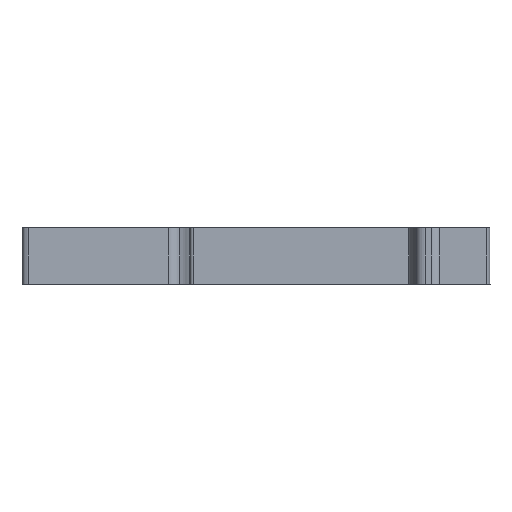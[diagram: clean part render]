
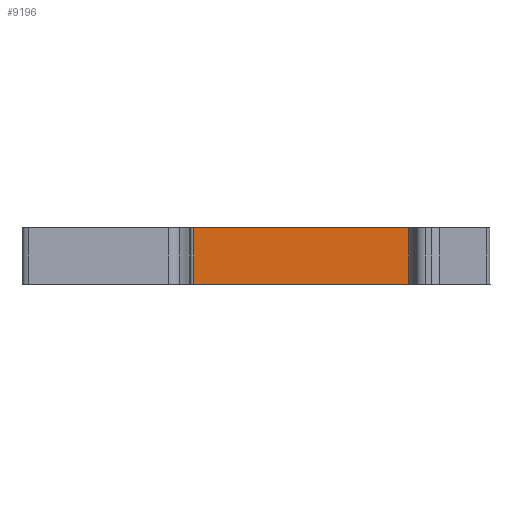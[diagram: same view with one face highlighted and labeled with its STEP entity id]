
A CAD part, front view. The second image highlights one B-rep face of the part: STEP entity #9196.
In plain terms, the highlighted planar face has unit normal (0, -1, 0).
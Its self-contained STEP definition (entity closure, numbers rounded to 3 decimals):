
#9196=ADVANCED_FACE('',(#11018),#10042,.T.);
#10042=PLANE('',#30331);
#11018=FACE_OUTER_BOUND('',#12151,.T.);
#12151=EDGE_LOOP('',(#15804,#15805,#15806,#15807));
#15804=ORIENTED_EDGE('',*,*,#23244,.T.);
#15805=ORIENTED_EDGE('',*,*,#23245,.F.);
#15806=ORIENTED_EDGE('',*,*,#23246,.F.);
#15807=ORIENTED_EDGE('',*,*,#23242,.F.);
#20470=VERTEX_POINT('',#42275);
#20471=VERTEX_POINT('',#42277);
#20472=VERTEX_POINT('',#42281);
#20473=VERTEX_POINT('',#42283);
#23242=EDGE_CURVE('',#20470,#20471,#25919,.T.);
#23244=EDGE_CURVE('',#20470,#20472,#25921,.T.);
#23245=EDGE_CURVE('',#20473,#20472,#25922,.T.);
#23246=EDGE_CURVE('',#20471,#20473,#25923,.T.);
#25919=LINE('',#42276,#28321);
#25921=LINE('',#42280,#28323);
#25922=LINE('',#42282,#28324);
#25923=LINE('',#42284,#28325);
#28321=VECTOR('',#34384,1.);
#28323=VECTOR('',#34388,1.);
#28324=VECTOR('',#34389,1.);
#28325=VECTOR('',#34390,1.);
#30331=AXIS2_PLACEMENT_3D('',#42285,#34391,#34392);
#34384=DIRECTION('',(0.,0.,-1.));
#34388=DIRECTION('',(-1.,0.,0.));
#34389=DIRECTION('',(0.,0.,1.));
#34390=DIRECTION('',(-1.,0.,0.));
#34391=DIRECTION('',(0.,-1.,0.));
#34392=DIRECTION('',(1.,0.,0.));
#42275=CARTESIAN_POINT('',(161.15,16.53,0.));
#42276=CARTESIAN_POINT('',(161.15,16.53,0.));
#42277=CARTESIAN_POINT('',(161.15,16.53,-8.15));
#42280=CARTESIAN_POINT('',(161.15,16.53,0.));
#42281=CARTESIAN_POINT('',(128.701,16.53,0.));
#42282=CARTESIAN_POINT('',(128.701,16.53,-8.15));
#42283=CARTESIAN_POINT('',(128.701,16.53,-8.15));
#42284=CARTESIAN_POINT('',(161.15,16.53,-8.15));
#42285=CARTESIAN_POINT('',(161.969,16.53,0.212));
